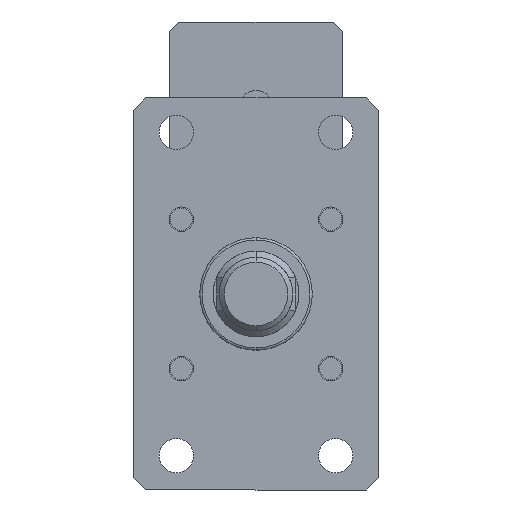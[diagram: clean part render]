
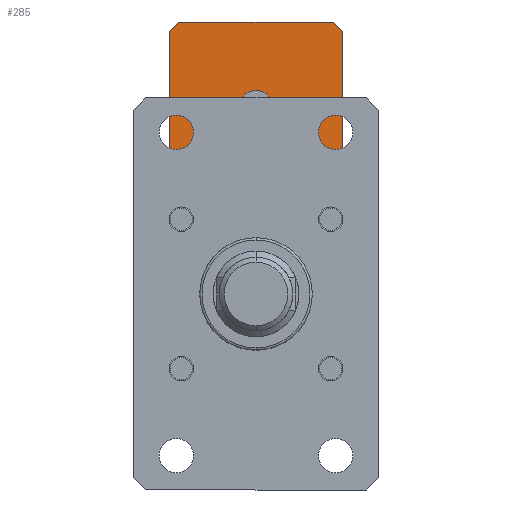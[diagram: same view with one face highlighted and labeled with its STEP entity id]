
A CAD part, front view. The second image highlights one B-rep face of the part: STEP entity #285.
In plain terms, the highlighted planar face has unit normal (0, -1, 0).
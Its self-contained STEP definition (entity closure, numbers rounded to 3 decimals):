
#58 = VECTOR ( 'NONE', #497, 1000. ) ;
#113 = ORIENTED_EDGE ( 'NONE', *, *, #4179, .F. ) ;
#205 = EDGE_CURVE ( 'NONE', #6607, #6733, #7124, .T. ) ;
#285 = ADVANCED_FACE ( 'NONE', ( #3454, #4931 ), #4493, .F. ) ;
#427 = ORIENTED_EDGE ( 'NONE', *, *, #534, .T. ) ;
#471 = ORIENTED_EDGE ( 'NONE', *, *, #4120, .T. ) ;
#497 = DIRECTION ( 'NONE',  ( 0., 0., -1. ) ) ;
#534 = EDGE_CURVE ( 'NONE', #6733, #1336, #3365, .T. ) ;
#754 = VECTOR ( 'NONE', #4037, 1000. ) ;
#956 = LINE ( 'NONE', #1988, #5209 ) ;
#1067 = CARTESIAN_POINT ( 'NONE',  ( -35.5, 160., 111. ) ) ;
#1120 = DIRECTION ( 'NONE',  ( 1., 0., 0. ) ) ;
#1184 = ORIENTED_EDGE ( 'NONE', *, *, #3949, .T. ) ;
#1222 = EDGE_CURVE ( 'NONE', #4986, #1624, #7229, .T. ) ;
#1311 = DIRECTION ( 'NONE',  ( 0., -1., 0. ) ) ;
#1336 = VERTEX_POINT ( 'NONE', #6849 ) ;
#1378 = LINE ( 'NONE', #6707, #4355 ) ;
#1407 = EDGE_CURVE ( 'NONE', #4385, #6567, #1378, .T. ) ;
#1417 = DIRECTION ( 'NONE',  ( 0., -1., 0. ) ) ;
#1418 = CARTESIAN_POINT ( 'NONE',  ( -35.5, 160., 44. ) ) ;
#1490 = CARTESIAN_POINT ( 'NONE',  ( -35.5, 160., 44. ) ) ;
#1624 = VERTEX_POINT ( 'NONE', #4799 ) ;
#1867 = VECTOR ( 'NONE', #2049, 1000. ) ;
#1933 = DIRECTION ( 'NONE',  ( 0., 0., -1. ) ) ;
#1988 = CARTESIAN_POINT ( 'NONE',  ( 31.5, 160., 111. ) ) ;
#2049 = DIRECTION ( 'NONE',  ( 0.707, 0., -0.707 ) ) ;
#2157 = EDGE_LOOP ( 'NONE', ( #4422, #427, #2976, #1184, #5599, #4911, #5264, #471 ) ) ;
#2228 = CARTESIAN_POINT ( 'NONE',  ( -35.5, 160., 111. ) ) ;
#2244 = LINE ( 'NONE', #2368, #754 ) ;
#2332 = EDGE_CURVE ( 'NONE', #4986, #6567, #956, .T. ) ;
#2368 = CARTESIAN_POINT ( 'NONE',  ( -31.5, 160., 111. ) ) ;
#2401 = LINE ( 'NONE', #4202, #6686 ) ;
#2493 = CARTESIAN_POINT ( 'NONE',  ( 35.5, 160., 111. ) ) ;
#2614 = VECTOR ( 'NONE', #1933, 1000. ) ;
#2622 = AXIS2_PLACEMENT_3D ( 'NONE', #4749, #1417, #5307 ) ;
#2660 = AXIS2_PLACEMENT_3D ( 'NONE', #2228, #3333, #7225 ) ;
#2800 = VERTEX_POINT ( 'NONE', #6096 ) ;
#2976 = ORIENTED_EDGE ( 'NONE', *, *, #5079, .T. ) ;
#3249 = CARTESIAN_POINT ( 'NONE',  ( 31.5, 160., 40. ) ) ;
#3333 = DIRECTION ( 'NONE',  ( 0., 1., 0. ) ) ;
#3365 = LINE ( 'NONE', #1490, #1867 ) ;
#3454 = FACE_BOUND ( 'NONE', #7163, .T. ) ;
#3486 = CARTESIAN_POINT ( 'NONE',  ( 0., 160., 68. ) ) ;
#3789 = EDGE_CURVE ( 'NONE', #2800, #7096, #5821, .T. ) ;
#3802 = CARTESIAN_POINT ( 'NONE',  ( 35.5, 160., 44. ) ) ;
#3827 = LINE ( 'NONE', #3802, #5293 ) ;
#3949 = EDGE_CURVE ( 'NONE', #6455, #1624, #3827, .T. ) ;
#4037 = DIRECTION ( 'NONE',  ( -0.707, 0., -0.707 ) ) ;
#4120 = EDGE_CURVE ( 'NONE', #4385, #6607, #2244, .T. ) ;
#4141 = CARTESIAN_POINT ( 'NONE',  ( 35.5, 160., 107. ) ) ;
#4179 = EDGE_CURVE ( 'NONE', #7096, #2800, #4859, .T. ) ;
#4202 = CARTESIAN_POINT ( 'NONE',  ( -35.5, 160., 40. ) ) ;
#4344 = AXIS2_PLACEMENT_3D ( 'NONE', #4652, #1311, #5213 ) ;
#4355 = VECTOR ( 'NONE', #1120, 1000. ) ;
#4385 = VERTEX_POINT ( 'NONE', #6611 ) ;
#4422 = ORIENTED_EDGE ( 'NONE', *, *, #205, .T. ) ;
#4493 = PLANE ( 'NONE',  #2660 ) ;
#4652 = CARTESIAN_POINT ( 'NONE',  ( 0., 160., 75.5 ) ) ;
#4749 = CARTESIAN_POINT ( 'NONE',  ( 0., 160., 75.5 ) ) ;
#4799 = CARTESIAN_POINT ( 'NONE',  ( 35.5, 160., 44. ) ) ;
#4859 = CIRCLE ( 'NONE', #4344, 7.5 ) ;
#4911 = ORIENTED_EDGE ( 'NONE', *, *, #2332, .T. ) ;
#4931 = FACE_OUTER_BOUND ( 'NONE', #2157, .T. ) ;
#4986 = VERTEX_POINT ( 'NONE', #4141 ) ;
#5079 = EDGE_CURVE ( 'NONE', #1336, #6455, #2401, .T. ) ;
#5209 = VECTOR ( 'NONE', #5322, 1000. ) ;
#5213 = DIRECTION ( 'NONE',  ( 0., 0., -1. ) ) ;
#5264 = ORIENTED_EDGE ( 'NONE', *, *, #1407, .F. ) ;
#5293 = VECTOR ( 'NONE', #6580, 1000. ) ;
#5307 = DIRECTION ( 'NONE',  ( 0., 0., -1. ) ) ;
#5322 = DIRECTION ( 'NONE',  ( -0.707, 0., 0.707 ) ) ;
#5344 = ORIENTED_EDGE ( 'NONE', *, *, #3789, .F. ) ;
#5599 = ORIENTED_EDGE ( 'NONE', *, *, #1222, .F. ) ;
#5821 = CIRCLE ( 'NONE', #2622, 7.5 ) ;
#6096 = CARTESIAN_POINT ( 'NONE',  ( 0., 160., 83. ) ) ;
#6146 = CARTESIAN_POINT ( 'NONE',  ( 31.5, 160., 111. ) ) ;
#6455 = VERTEX_POINT ( 'NONE', #3249 ) ;
#6567 = VERTEX_POINT ( 'NONE', #6146 ) ;
#6580 = DIRECTION ( 'NONE',  ( 0.707, 0., 0.707 ) ) ;
#6607 = VERTEX_POINT ( 'NONE', #6743 ) ;
#6611 = CARTESIAN_POINT ( 'NONE',  ( -31.5, 160., 111. ) ) ;
#6686 = VECTOR ( 'NONE', #6960, 1000. ) ;
#6707 = CARTESIAN_POINT ( 'NONE',  ( -35.5, 160., 111. ) ) ;
#6733 = VERTEX_POINT ( 'NONE', #1418 ) ;
#6743 = CARTESIAN_POINT ( 'NONE',  ( -35.5, 160., 107. ) ) ;
#6849 = CARTESIAN_POINT ( 'NONE',  ( -31.5, 160., 40. ) ) ;
#6960 = DIRECTION ( 'NONE',  ( 1., 0., 0. ) ) ;
#7096 = VERTEX_POINT ( 'NONE', #3486 ) ;
#7124 = LINE ( 'NONE', #1067, #58 ) ;
#7163 = EDGE_LOOP ( 'NONE', ( #113, #5344 ) ) ;
#7225 = DIRECTION ( 'NONE',  ( 0., 0., 1. ) ) ;
#7229 = LINE ( 'NONE', #2493, #2614 ) ;
